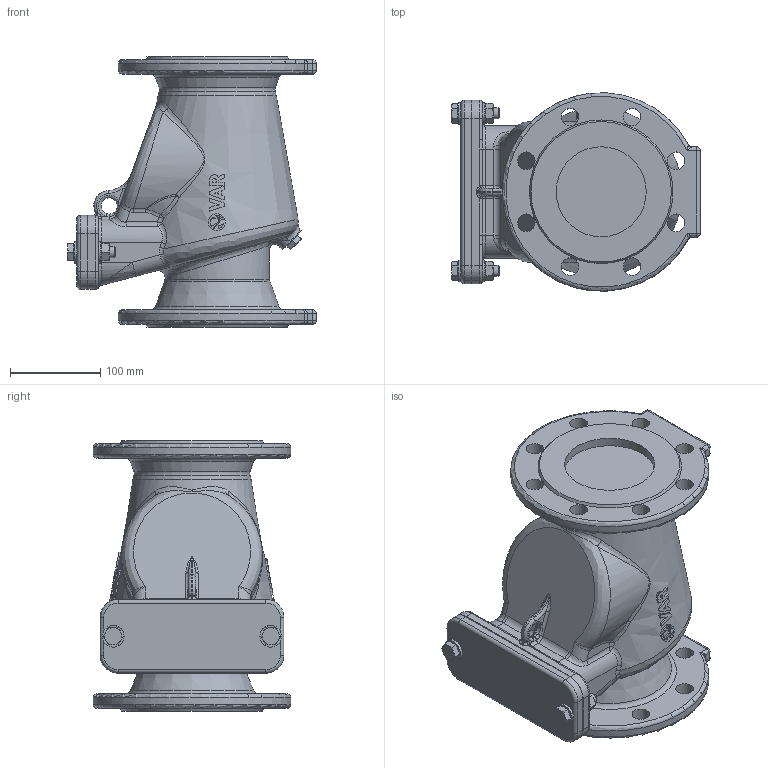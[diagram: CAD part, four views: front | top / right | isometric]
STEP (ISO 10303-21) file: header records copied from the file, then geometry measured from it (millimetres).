
FILE_DESCRIPTION(('STEP AP242'), '1');
FILE_NAME('VAR RETO-STOP 吾疣蝽 觌囡囗 DN 100 PN 16', '2026-06-28T08:25:36', (' '), (' '), 'C3D Converter', 'C3D Toolkit', '');
FILE_SCHEMA(('AP242_MANAGED_MODEL_BASED_3D_ENGINEERING_MIM_LF { 1 0 10303 442 1 1 4 }'));
Length unit declared in the file: millimetre
Products named in the file (1): Admi10D408D9feh8
Bounding box: 276 x 219.75 x 300 mm (x, y, z)
Volume: 7147366.9 mm3; surface area: 354216.8 mm2
Topology: 1 solids, 6 shells, 640 faces, 1588 edges, 964 vertices
Faces by surface type: plane 201, extrusion 138, cylinder 115, bspline 67, cone 66, torus 35, sphere 18
Full cylindrical faces by diameter (mm): 10 x1, 10.5 x1, 11.053 x2, 12 x4, 13 x4, 15.6 x1, 17.2 x2, 18 x2, 18.82 x1, 19.5 x16, 20 x1, 24 x4, 30 x1, 100 x2, 116 x1
Entity records: 45260 total; most frequent: CARTESIAN_POINT 26859, ORIENTED_EDGE 2960, DIRECTION 2238, EDGE_CURVE 1480, VERTEX_POINT 957, AXIS2_PLACEMENT_3D 827, EDGE_LOOP 787, B_SPLINE_CURVE_WITH_KNOTS 780
